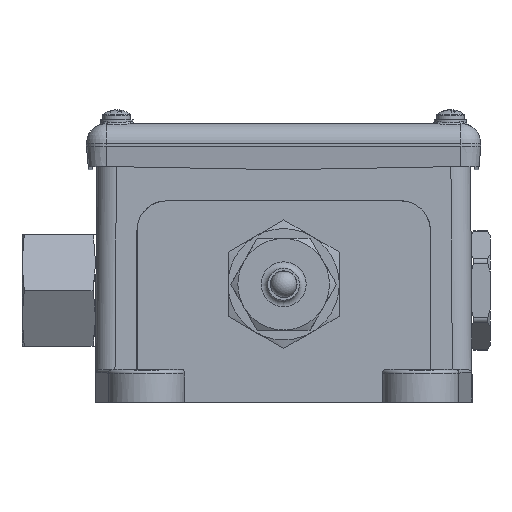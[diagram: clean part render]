
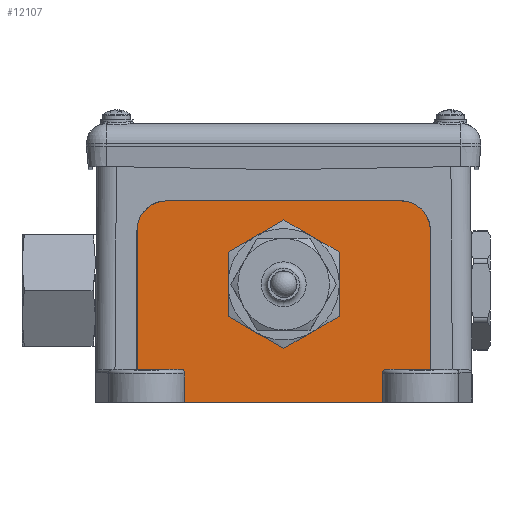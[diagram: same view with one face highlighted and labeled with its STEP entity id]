
A CAD part, front view. The second image highlights one B-rep face of the part: STEP entity #12107.
In plain terms, the highlighted planar face has unit normal (0, -1, 0).
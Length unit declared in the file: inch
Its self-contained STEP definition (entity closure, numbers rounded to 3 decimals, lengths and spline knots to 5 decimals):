
#194 = EDGE_CURVE ( 'NONE', #12212, #14981, #6728, .T. ) ;
#547 = EDGE_CURVE ( 'NONE', #4572, #5848, #4815, .T. ) ;
#652 = EDGE_LOOP ( 'NONE', ( #13309, #8400, #14729, #13981, #8148, #13907, #1642, #838, #10423, #2366, #18048, #7564 ) ) ;
#700 = DIRECTION ( 'NONE',  ( 1., 0., 0. ) ) ;
#758 = DIRECTION ( 'NONE',  ( -1., 0., 0. ) ) ;
#838 = ORIENTED_EDGE ( 'NONE', *, *, #11767, .T. ) ;
#867 = VERTEX_POINT ( 'NONE', #12429 ) ;
#1051 = LINE ( 'NONE', #13754, #8585 ) ;
#1229 = CARTESIAN_POINT ( 'NONE',  ( -1.4, -1.48, 1.64 ) ) ;
#1263 = CIRCLE ( 'NONE', #1853, 0.51 ) ;
#1642 = ORIENTED_EDGE ( 'NONE', *, *, #5185, .T. ) ;
#1689 = CARTESIAN_POINT ( 'NONE',  ( 0.94497, -1.48, 1.64 ) ) ;
#1853 = AXIS2_PLACEMENT_3D ( 'NONE', #13591, #6104, #9093 ) ;
#2127 = CARTESIAN_POINT ( 'NONE',  ( -1.4, -1.48, 0. ) ) ;
#2321 = DIRECTION ( 'NONE',  ( 0., -1., 0. ) ) ;
#2366 = ORIENTED_EDGE ( 'NONE', *, *, #15488, .T. ) ;
#2489 = EDGE_CURVE ( 'NONE', #5230, #13034, #8616, .T. ) ;
#2509 = CARTESIAN_POINT ( 'NONE',  ( -1.119, -1.48, 1.64 ) ) ;
#2612 = CARTESIAN_POINT ( 'NONE',  ( -0.97622, -1.48, 0.3125 ) ) ;
#2640 = VERTEX_POINT ( 'NONE', #6274 ) ;
#3119 = PLANE ( 'NONE',  #14734 ) ;
#3374 = DIRECTION ( 'NONE',  ( 0., 0., -1. ) ) ;
#3465 = LINE ( 'NONE', #9310, #12762 ) ;
#3486 = CARTESIAN_POINT ( 'NONE',  ( 1.119, -1.48, 0.3125 ) ) ;
#3764 = LINE ( 'NONE', #3486, #16819 ) ;
#3798 = VERTEX_POINT ( 'NONE', #5598 ) ;
#3858 = CARTESIAN_POINT ( 'NONE',  ( 0.94497, -1.48, 0.28125 ) ) ;
#4025 = CARTESIAN_POINT ( 'NONE',  ( -0.94497, -1.48, 0.29956 ) ) ;
#4354 = CARTESIAN_POINT ( 'NONE',  ( 1.119, -1.48, 1.921 ) ) ;
#4482 = EDGE_CURVE ( 'NONE', #2640, #10526, #18662, .T. ) ;
#4572 = VERTEX_POINT ( 'NONE', #8721 ) ;
#4815 = LINE ( 'NONE', #1689, #18221 ) ;
#5185 = EDGE_CURVE ( 'NONE', #3798, #867, #18258, .T. ) ;
#5230 = VERTEX_POINT ( 'NONE', #16410 ) ;
#5598 = CARTESIAN_POINT ( 'NONE',  ( -1.4, -1.48, 0.3125 ) ) ;
#5636 = CARTESIAN_POINT ( 'NONE',  ( -0.94497, -1.48, 1.64 ) ) ;
#5848 = VERTEX_POINT ( 'NONE', #17985 ) ;
#6079 = CARTESIAN_POINT ( 'NONE',  ( 1.119, -1.48, 1.64 ) ) ;
#6104 = DIRECTION ( 'NONE',  ( 0., 1., 0. ) ) ;
#6155 = CARTESIAN_POINT ( 'NONE',  ( 1.4, -1.48, 1.64 ) ) ;
#6274 = CARTESIAN_POINT ( 'NONE',  ( -1.119, -1.48, 1.921 ) ) ;
#6728 = LINE ( 'NONE', #12704, #10002 ) ;
#7509 = CARTESIAN_POINT ( 'NONE',  ( -0.94497, -1.48, 0.28125 ) ) ;
#7564 = ORIENTED_EDGE ( 'NONE', *, *, #8213, .T. ) ;
#7912 = EDGE_CURVE ( 'NONE', #7928, #2640, #1051, .T. ) ;
#7928 = VERTEX_POINT ( 'NONE', #4354 ) ;
#8148 = ORIENTED_EDGE ( 'NONE', *, *, #4482, .T. ) ;
#8213 = EDGE_CURVE ( 'NONE', #4572, #12752, #14393, .T. ) ;
#8235 = EDGE_CURVE ( 'NONE', #12212, #12752, #3764, .T. ) ;
#8285 = CARTESIAN_POINT ( 'NONE',  ( 0.95791, -1.48, 0.3125 ) ) ;
#8400 = ORIENTED_EDGE ( 'NONE', *, *, #194, .T. ) ;
#8585 = VECTOR ( 'NONE', #758, 39.37008 ) ;
#8616 = LINE ( 'NONE', #5636, #11831 ) ;
#8721 = CARTESIAN_POINT ( 'NONE',  ( 0.94497, -1.48, 0.28125 ) ) ;
#9093 = DIRECTION ( 'NONE',  ( 0., 0., 1. ) ) ;
#9131 =( BOUNDED_CURVE ( )  B_SPLINE_CURVE ( 3, ( #2612, #11131, #4025, #16944 ),
 .UNSPECIFIED., .F., .F. ) 
 B_SPLINE_CURVE_WITH_KNOTS ( ( 4, 4 ),
 ( 3.14159, 4.71239 ),
 .UNSPECIFIED. ) 
 CURVE ( )  GEOMETRIC_REPRESENTATION_ITEM ( )  RATIONAL_B_SPLINE_CURVE ( ( 1., 0.805, 0.805, 1. ) ) 
 REPRESENTATION_ITEM ( '' )  );
#9145 = CARTESIAN_POINT ( 'NONE',  ( 1.4, -1.48, 0.3125 ) ) ;
#9310 = CARTESIAN_POINT ( 'NONE',  ( 1.4, -1.48, 0. ) ) ;
#9334 = DIRECTION ( 'NONE',  ( -1., 0., 0. ) ) ;
#9562 = EDGE_CURVE ( 'NONE', #11711, #11711, #1263, .T. ) ;
#9716 = CARTESIAN_POINT ( 'NONE',  ( 0.94497, -1.48, 0.29956 ) ) ;
#10002 = VECTOR ( 'NONE', #15443, 39.37008 ) ;
#10275 = CARTESIAN_POINT ( 'NONE',  ( 0., -1.48, 1.635 ) ) ;
#10423 = ORIENTED_EDGE ( 'NONE', *, *, #2489, .F. ) ;
#10502 = DIRECTION ( 'NONE',  ( 0., 0., 1. ) ) ;
#10526 = VERTEX_POINT ( 'NONE', #1229 ) ;
#11131 = CARTESIAN_POINT ( 'NONE',  ( -0.95791, -1.48, 0.3125 ) ) ;
#11315 = DIRECTION ( 'NONE',  ( 0., 0., -1. ) ) ;
#11711 = VERTEX_POINT ( 'NONE', #10275 ) ;
#11767 = EDGE_CURVE ( 'NONE', #867, #13034, #9131, .T. ) ;
#11831 = VECTOR ( 'NONE', #15960, 39.37008 ) ;
#11934 = DIRECTION ( 'NONE',  ( 0., -1., 0. ) ) ;
#11980 = EDGE_CURVE ( 'NONE', #10526, #3798, #15210, .T. ) ;
#12107 = ADVANCED_FACE ( 'NONE', ( #15687, #16207 ), #3119, .F. ) ;
#12212 = VERTEX_POINT ( 'NONE', #9145 ) ;
#12279 = DIRECTION ( 'NONE',  ( 1., 0., 0. ) ) ;
#12429 = CARTESIAN_POINT ( 'NONE',  ( -0.97622, -1.48, 0.3125 ) ) ;
#12512 = ORIENTED_EDGE ( 'NONE', *, *, #9562, .T. ) ;
#12704 = CARTESIAN_POINT ( 'NONE',  ( 1.4, -1.48, 0. ) ) ;
#12752 = VERTEX_POINT ( 'NONE', #13572 ) ;
#12762 = VECTOR ( 'NONE', #12279, 39.37008 ) ;
#13034 = VERTEX_POINT ( 'NONE', #7509 ) ;
#13225 = VECTOR ( 'NONE', #13977, 39.37008 ) ;
#13309 = ORIENTED_EDGE ( 'NONE', *, *, #8235, .F. ) ;
#13572 = CARTESIAN_POINT ( 'NONE',  ( 0.97622, -1.48, 0.3125 ) ) ;
#13591 = CARTESIAN_POINT ( 'NONE',  ( 0., -1.48, 1.125 ) ) ;
#13754 = CARTESIAN_POINT ( 'NONE',  ( 1.119, -1.48, 1.921 ) ) ;
#13792 = CARTESIAN_POINT ( 'NONE',  ( 1.119, -1.48, 0.3125 ) ) ;
#13907 = ORIENTED_EDGE ( 'NONE', *, *, #11980, .T. ) ;
#13977 = DIRECTION ( 'NONE',  ( 0., 0., -1. ) ) ;
#13981 = ORIENTED_EDGE ( 'NONE', *, *, #7912, .T. ) ;
#14393 =( BOUNDED_CURVE ( )  B_SPLINE_CURVE ( 3, ( #3858, #9716, #8285, #16579 ),
 .UNSPECIFIED., .F., .F. ) 
 B_SPLINE_CURVE_WITH_KNOTS ( ( 4, 4 ),
 ( 4.71239, 6.28319 ),
 .UNSPECIFIED. ) 
 CURVE ( )  GEOMETRIC_REPRESENTATION_ITEM ( )  RATIONAL_B_SPLINE_CURVE ( ( 1., 0.805, 0.805, 1. ) ) 
 REPRESENTATION_ITEM ( '' )  );
#14729 = ORIENTED_EDGE ( 'NONE', *, *, #17672, .T. ) ;
#14734 = AXIS2_PLACEMENT_3D ( 'NONE', #14791, #18198, #15161 ) ;
#14791 = CARTESIAN_POINT ( 'NONE',  ( 1.119, -1.48, 1.64 ) ) ;
#14981 = VERTEX_POINT ( 'NONE', #6155 ) ;
#15161 = DIRECTION ( 'NONE',  ( 0., 0., 1. ) ) ;
#15198 = AXIS2_PLACEMENT_3D ( 'NONE', #6079, #11934, #10502 ) ;
#15210 = LINE ( 'NONE', #2127, #13225 ) ;
#15443 = DIRECTION ( 'NONE',  ( 0., 0., 1. ) ) ;
#15488 = EDGE_CURVE ( 'NONE', #5230, #5848, #3465, .T. ) ;
#15629 = VECTOR ( 'NONE', #700, 39.37008 ) ;
#15687 = FACE_BOUND ( 'NONE', #17482, .T. ) ;
#15960 = DIRECTION ( 'NONE',  ( 0., 0., 1. ) ) ;
#16207 = FACE_OUTER_BOUND ( 'NONE', #652, .T. ) ;
#16410 = CARTESIAN_POINT ( 'NONE',  ( -0.94497, -1.48, 0. ) ) ;
#16579 = CARTESIAN_POINT ( 'NONE',  ( 0.97622, -1.48, 0.3125 ) ) ;
#16819 = VECTOR ( 'NONE', #9334, 39.37008 ) ;
#16944 = CARTESIAN_POINT ( 'NONE',  ( -0.94497, -1.48, 0.28125 ) ) ;
#17482 = EDGE_LOOP ( 'NONE', ( #12512 ) ) ;
#17672 = EDGE_CURVE ( 'NONE', #14981, #7928, #18546, .T. ) ;
#17985 = CARTESIAN_POINT ( 'NONE',  ( 0.94497, -1.48, 0. ) ) ;
#18048 = ORIENTED_EDGE ( 'NONE', *, *, #547, .F. ) ;
#18198 = DIRECTION ( 'NONE',  ( 0., 1., 0. ) ) ;
#18221 = VECTOR ( 'NONE', #3374, 39.37008 ) ;
#18258 = LINE ( 'NONE', #13792, #15629 ) ;
#18356 = AXIS2_PLACEMENT_3D ( 'NONE', #2509, #2321, #11315 ) ;
#18546 = CIRCLE ( 'NONE', #15198, 0.281 ) ;
#18662 = CIRCLE ( 'NONE', #18356, 0.281 ) ;
